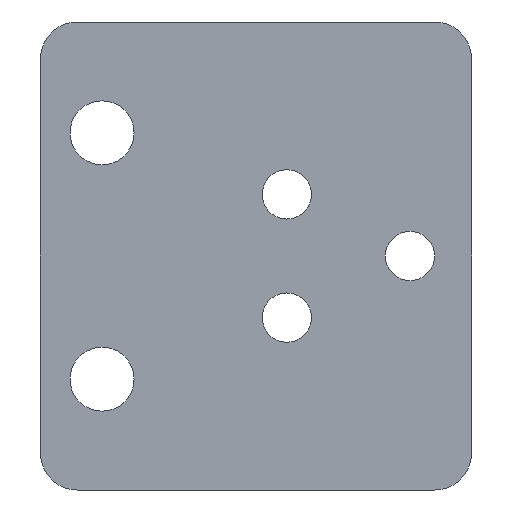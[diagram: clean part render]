
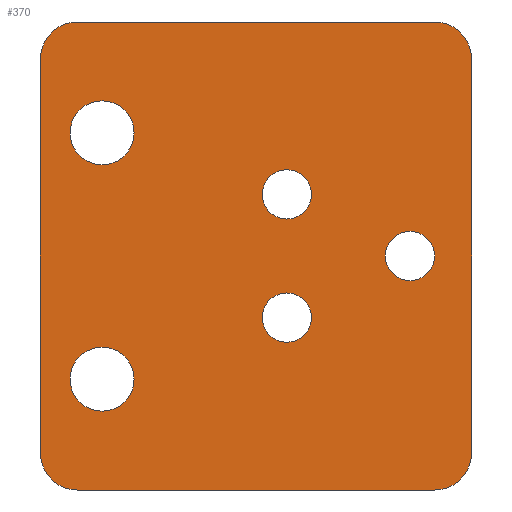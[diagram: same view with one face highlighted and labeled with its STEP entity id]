
A CAD part, front view. The second image highlights one B-rep face of the part: STEP entity #370.
In plain terms, the highlighted planar face has unit normal (0, -1, 0).
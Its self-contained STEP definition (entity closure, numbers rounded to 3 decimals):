
#1=CARTESIAN_POINT('',(2.5,0.,-5.));
#2=DIRECTION('',(0.,-1.,0.));
#3=DIRECTION('',(1.,0.,0.));
#4=AXIS2_PLACEMENT_3D('',#1,#2,#3);
#6=CARTESIAN_POINT('',(2.5,0.,-5.));
#7=DIRECTION('',(0.,-1.,0.));
#8=DIRECTION('',(-1.,0.,0.));
#9=AXIS2_PLACEMENT_3D('',#6,#7,#8);
#11=CARTESIAN_POINT('',(2.5,0.,5.));
#12=DIRECTION('',(0.,-1.,0.));
#13=DIRECTION('',(1.,0.,0.));
#14=AXIS2_PLACEMENT_3D('',#11,#12,#13);
#16=CARTESIAN_POINT('',(2.5,0.,5.));
#17=DIRECTION('',(0.,-1.,0.));
#18=DIRECTION('',(-1.,0.,0.));
#19=AXIS2_PLACEMENT_3D('',#16,#17,#18);
#21=CARTESIAN_POINT('',(12.5,0.,0.));
#22=DIRECTION('',(0.,-1.,0.));
#23=DIRECTION('',(1.,0.,0.));
#24=AXIS2_PLACEMENT_3D('',#21,#22,#23);
#26=CARTESIAN_POINT('',(12.5,0.,0.));
#27=DIRECTION('',(0.,-1.,0.));
#28=DIRECTION('',(-1.,0.,0.));
#29=AXIS2_PLACEMENT_3D('',#26,#27,#28);
#31=CARTESIAN_POINT('',(-14.5,0.,-16.));
#32=DIRECTION('',(0.,-1.,0.));
#33=DIRECTION('',(-1.,0.,0.));
#34=AXIS2_PLACEMENT_3D('',#31,#32,#33);
#36=DIRECTION('',(0.,0.,1.));
#37=VECTOR('',#36,32.);
#38=CARTESIAN_POINT('',(-17.5,0.,-16.));
#39=LINE('',#38,#37);
#40=CARTESIAN_POINT('',(-14.5,0.,16.));
#41=DIRECTION('',(0.,-1.,0.));
#42=DIRECTION('',(0.,0.,1.));
#43=AXIS2_PLACEMENT_3D('',#40,#41,#42);
#45=DIRECTION('',(1.,0.,0.));
#46=VECTOR('',#45,29.);
#47=CARTESIAN_POINT('',(-14.5,0.,19.));
#48=LINE('',#47,#46);
#49=CARTESIAN_POINT('',(14.5,0.,16.));
#50=DIRECTION('',(0.,-1.,0.));
#51=DIRECTION('',(1.,0.,0.));
#52=AXIS2_PLACEMENT_3D('',#49,#50,#51);
#54=DIRECTION('',(0.,0.,-1.));
#55=VECTOR('',#54,32.);
#56=CARTESIAN_POINT('',(17.5,0.,16.));
#57=LINE('',#56,#55);
#58=CARTESIAN_POINT('',(14.5,0.,-16.));
#59=DIRECTION('',(0.,-1.,0.));
#60=DIRECTION('',(0.,0.,-1.));
#61=AXIS2_PLACEMENT_3D('',#58,#59,#60);
#63=DIRECTION('',(-1.,0.,0.));
#64=VECTOR('',#63,29.);
#65=CARTESIAN_POINT('',(14.5,0.,-19.));
#66=LINE('',#65,#64);
#67=CARTESIAN_POINT('',(-12.5,0.,-10.));
#68=DIRECTION('',(0.,-1.,0.));
#69=DIRECTION('',(1.,0.,0.));
#70=AXIS2_PLACEMENT_3D('',#67,#68,#69);
#72=CARTESIAN_POINT('',(-12.5,0.,-10.));
#73=DIRECTION('',(0.,-1.,0.));
#74=DIRECTION('',(-1.,0.,0.));
#75=AXIS2_PLACEMENT_3D('',#72,#73,#74);
#77=CARTESIAN_POINT('',(-12.5,0.,10.));
#78=DIRECTION('',(0.,-1.,0.));
#79=DIRECTION('',(1.,0.,0.));
#80=AXIS2_PLACEMENT_3D('',#77,#78,#79);
#82=CARTESIAN_POINT('',(-12.5,0.,10.));
#83=DIRECTION('',(0.,-1.,0.));
#84=DIRECTION('',(-1.,0.,0.));
#85=AXIS2_PLACEMENT_3D('',#82,#83,#84);
#245=CARTESIAN_POINT('',(4.5,0.,-5.));
#246=CARTESIAN_POINT('',(0.5,0.,-5.));
#247=VERTEX_POINT('',#245);
#248=VERTEX_POINT('',#246);
#253=CARTESIAN_POINT('',(4.5,0.,5.));
#254=CARTESIAN_POINT('',(0.5,0.,5.));
#255=VERTEX_POINT('',#253);
#256=VERTEX_POINT('',#254);
#261=CARTESIAN_POINT('',(14.5,0.,0.));
#262=CARTESIAN_POINT('',(10.5,0.,0.));
#263=VERTEX_POINT('',#261);
#264=VERTEX_POINT('',#262);
#269=CARTESIAN_POINT('',(-17.5,0.,-16.));
#270=CARTESIAN_POINT('',(-14.5,0.,-19.));
#271=VERTEX_POINT('',#269);
#272=VERTEX_POINT('',#270);
#277=CARTESIAN_POINT('',(-14.5,0.,19.));
#278=CARTESIAN_POINT('',(-17.5,0.,16.));
#279=VERTEX_POINT('',#277);
#280=VERTEX_POINT('',#278);
#285=CARTESIAN_POINT('',(17.5,0.,16.));
#286=CARTESIAN_POINT('',(14.5,0.,19.));
#287=VERTEX_POINT('',#285);
#288=VERTEX_POINT('',#286);
#293=CARTESIAN_POINT('',(14.5,0.,-19.));
#294=CARTESIAN_POINT('',(17.5,0.,-16.));
#295=VERTEX_POINT('',#293);
#296=VERTEX_POINT('',#294);
#301=CARTESIAN_POINT('',(-9.9,0.,-10.));
#302=CARTESIAN_POINT('',(-15.1,0.,-10.));
#303=VERTEX_POINT('',#301);
#304=VERTEX_POINT('',#302);
#309=CARTESIAN_POINT('',(-9.9,0.,10.));
#310=CARTESIAN_POINT('',(-15.1,0.,10.));
#311=VERTEX_POINT('',#309);
#312=VERTEX_POINT('',#310);
#317=CARTESIAN_POINT('',(0.,0.,0.));
#318=DIRECTION('',(0.,1.,0.));
#319=DIRECTION('',(1.,0.,0.));
#320=AXIS2_PLACEMENT_3D('',#317,#318,#319);
#321=PLANE('',#320);
#323=ORIENTED_EDGE('',*,*,#322,.F.);
#325=ORIENTED_EDGE('',*,*,#324,.T.);
#327=ORIENTED_EDGE('',*,*,#326,.F.);
#329=ORIENTED_EDGE('',*,*,#328,.T.);
#331=ORIENTED_EDGE('',*,*,#330,.F.);
#333=ORIENTED_EDGE('',*,*,#332,.T.);
#335=ORIENTED_EDGE('',*,*,#334,.F.);
#337=ORIENTED_EDGE('',*,*,#336,.T.);
#338=EDGE_LOOP('',(#323,#325,#327,#329,#331,#333,#335,#337));
#339=FACE_OUTER_BOUND('',#338,.F.);
#341=ORIENTED_EDGE('',*,*,#340,.T.);
#343=ORIENTED_EDGE('',*,*,#342,.T.);
#344=EDGE_LOOP('',(#341,#343));
#345=FACE_BOUND('',#344,.F.);
#347=ORIENTED_EDGE('',*,*,#346,.T.);
#349=ORIENTED_EDGE('',*,*,#348,.T.);
#350=EDGE_LOOP('',(#347,#349));
#351=FACE_BOUND('',#350,.F.);
#353=ORIENTED_EDGE('',*,*,#352,.T.);
#355=ORIENTED_EDGE('',*,*,#354,.T.);
#356=EDGE_LOOP('',(#353,#355));
#357=FACE_BOUND('',#356,.F.);
#359=ORIENTED_EDGE('',*,*,#358,.T.);
#361=ORIENTED_EDGE('',*,*,#360,.T.);
#362=EDGE_LOOP('',(#359,#361));
#363=FACE_BOUND('',#362,.F.);
#365=ORIENTED_EDGE('',*,*,#364,.T.);
#367=ORIENTED_EDGE('',*,*,#366,.T.);
#368=EDGE_LOOP('',(#365,#367));
#369=FACE_BOUND('',#368,.F.);
#370=ADVANCED_FACE('',(#339,#345,#351,#357,#363,#369),#321,.F.);
#5=CIRCLE('',#4,2.);
#10=CIRCLE('',#9,2.);
#15=CIRCLE('',#14,2.);
#20=CIRCLE('',#19,2.);
#25=CIRCLE('',#24,2.);
#30=CIRCLE('',#29,2.);
#35=CIRCLE('',#34,3.);
#44=CIRCLE('',#43,3.);
#53=CIRCLE('',#52,3.);
#62=CIRCLE('',#61,3.);
#71=CIRCLE('',#70,2.6);
#76=CIRCLE('',#75,2.6);
#81=CIRCLE('',#80,2.6);
#86=CIRCLE('',#85,2.6);
#322=EDGE_CURVE('',#271,#272,#35,.T.);
#324=EDGE_CURVE('',#271,#280,#39,.T.);
#326=EDGE_CURVE('',#279,#280,#44,.T.);
#328=EDGE_CURVE('',#279,#288,#48,.T.);
#330=EDGE_CURVE('',#287,#288,#53,.T.);
#332=EDGE_CURVE('',#287,#296,#57,.T.);
#334=EDGE_CURVE('',#295,#296,#62,.T.);
#336=EDGE_CURVE('',#295,#272,#66,.T.);
#340=EDGE_CURVE('',#255,#256,#15,.T.);
#342=EDGE_CURVE('',#256,#255,#20,.T.);
#346=EDGE_CURVE('',#263,#264,#25,.T.);
#348=EDGE_CURVE('',#264,#263,#30,.T.);
#352=EDGE_CURVE('',#247,#248,#5,.T.);
#354=EDGE_CURVE('',#248,#247,#10,.T.);
#358=EDGE_CURVE('',#303,#304,#71,.T.);
#360=EDGE_CURVE('',#304,#303,#76,.T.);
#364=EDGE_CURVE('',#311,#312,#81,.T.);
#366=EDGE_CURVE('',#312,#311,#86,.T.);
